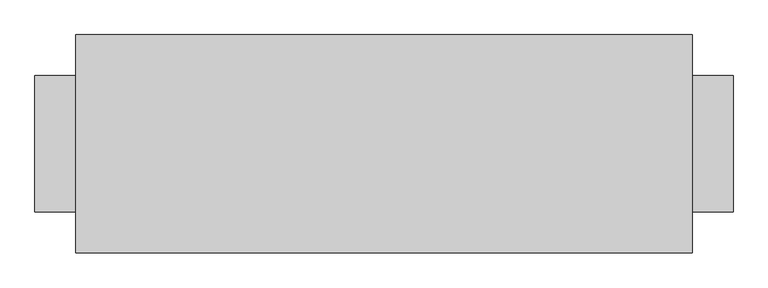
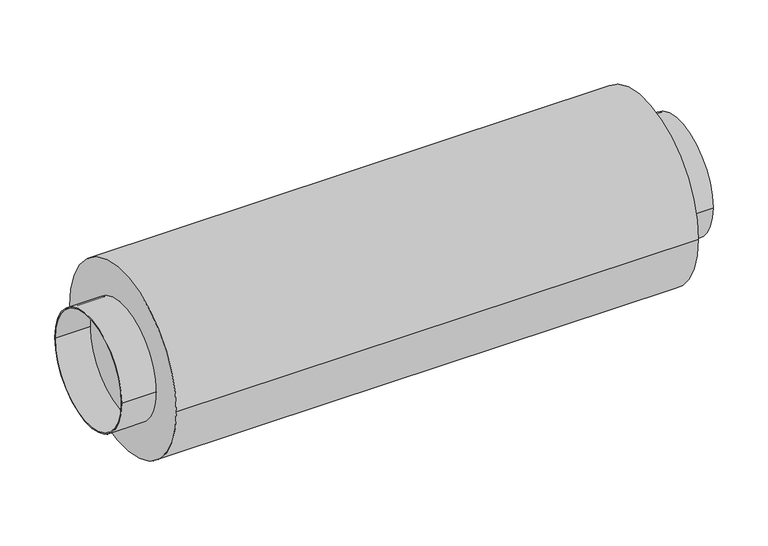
"""IFC4 building model written with IfcOpenShell, lengths in millimetres: damper geometry, СВ_Шумоглушитель_КанальныйКруглый_DN100-315_SHK : SHK-200/900."""

from ifc_helpers import new_model, si_unit, point, frame, origin, origin_2d, place, context, project, spatial, circle_curve, trimmed, segment, composite_curve, outline, extrude, source, transform, mapped, element, save


def damper_13c84012(model_context):
    return source(origin(), model_context, "Body", "SweptSolid", [
        extrude(outline(composite_curve([segment(trimmed(circle_curve(origin_2d(), 159.5), [point((-159.5, 0.0))], [point((159.5, 0.0))], False, "CARTESIAN"), True, "CONTINUOUS"), segment(trimmed(circle_curve(origin_2d(), 159.5), [point((159.5, 0.0))], [point((-159.5, 0.0))], False, "CARTESIAN"), True, "CONTINUOUS")], self_intersect=False)), frame((-450.0, 0.0, 0.0), z_axis=(1.0, 0.0, 0.0), x_axis=(0.0, 1.0, 0.0)), (0.0, 0.0, 1.0), 900.0),
        extrude(outline(composite_curve([segment(trimmed(circle_curve(origin_2d(), 99.5), [point((-99.5, 0.0))], [point((99.5, 0.0))], False, "CARTESIAN"), True, "CONTINUOUS"), segment(trimmed(circle_curve(origin_2d(), 99.5), [point((99.5, 0.0))], [point((-99.5, 0.0))], False, "CARTESIAN"), True, "CONTINUOUS")], self_intersect=False), holes=[composite_curve([segment(trimmed(circle_curve(origin_2d(), 97.5), [point((-97.5, 0.0))], [point((97.5, 0.0))], True, "CARTESIAN"), True, "CONTINUOUS"), segment(trimmed(circle_curve(origin_2d(), 97.5), [point((97.5, 0.0))], [point((-97.5, 0.0))], True, "CARTESIAN"), True, "CONTINUOUS")], self_intersect=False)]), frame((-510.0, 0.0, 0.0), z_axis=(1.0, 0.0, 0.0), x_axis=(0.0, 1.0, 0.0)), (0.0, 0.0, 1.0), 60.0),
        extrude(outline(composite_curve([segment(trimmed(circle_curve(origin_2d(), 99.5), [point((-99.5, 0.0))], [point((99.5, 0.0))], False, "CARTESIAN"), True, "CONTINUOUS"), segment(trimmed(circle_curve(origin_2d(), 99.5), [point((99.5, 0.0))], [point((-99.5, 0.0))], False, "CARTESIAN"), True, "CONTINUOUS")], self_intersect=False), holes=[composite_curve([segment(trimmed(circle_curve(origin_2d(), 97.5), [point((-97.5, 0.0))], [point((97.5, 0.0))], True, "CARTESIAN"), True, "CONTINUOUS"), segment(trimmed(circle_curve(origin_2d(), 97.5), [point((97.5, 0.0))], [point((-97.5, 0.0))], True, "CARTESIAN"), True, "CONTINUOUS")], self_intersect=False)]), frame((450.0, 0.0, 0.0), z_axis=(1.0, 0.0, 0.0), x_axis=(0.0, 1.0, 0.0)), (0.0, 0.0, 1.0), 60.0),
    ])


if __name__ == "__main__":
    model = new_model("IFC4")
    model_context = context("Model", 3, world=origin())
    ifc_project = project(units=[si_unit("LENGTHUNIT", "METRE", prefix="MILLI")], contexts=[model_context])
    site = spatial("IfcSite", under=ifc_project)
    building = spatial("IfcBuilding", under=site)
    placement = place(None, origin())
    damper_shape = damper_13c84012(model_context)
    element("IfcDamper", 1, ObjectType="СВ_Шумоглушитель_КанальныйКруглый_DN100-315_SHK : SHK-200/900", at=placement, inside=building, context=model_context, shape_type="MappedRepresentation", body=[
        mapped(damper_shape, transform((0.0, 0.0, 0.0), x_axis=(1.0, 0.0, 0.0), y_axis=(0.0, 1.0, 0.0), z_axis=(0.0, 0.0, 1.0))),
    ])
    save(model, "model.ifc")
